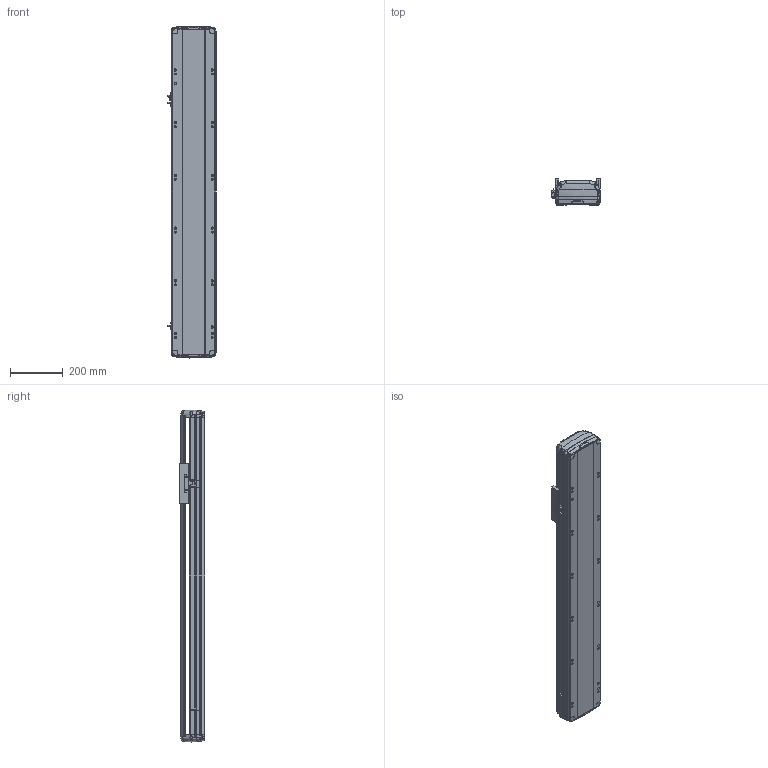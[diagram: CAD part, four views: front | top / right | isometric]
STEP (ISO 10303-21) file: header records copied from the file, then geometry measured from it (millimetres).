
FILE_DESCRIPTION (( 'STEP AP214' ), '1' );
FILE_NAME ('RTH17-XX-850-B-M40-C4.STEP', '2025-10-24T08:37:53', ( '' ), ( '' ), 'SwSTEP 2.0', 'SolidWorks 2018', '' );
FILE_SCHEMA (( 'AUTOMOTIVE_DESIGN' ));
Length unit declared in the file: millimetre
Products named in the file (7): N_RTH-L-012 感应片(外置)^RTH17-XX-XX-B-M40-C4（方程式）; N_RTH17-GY-001P^RTH17-XX-XX-B-M40-C4（方程式）; N_RTH17-M-007上盖^RTH17-XX-XX-B-M40-C4（方程式）; RTH17-XX-850-B-M40-C4; N_OMRON EE-SX672 換覜ん^RTH17-XX-XX-B-M40-C4ㄗ源最宒ㄘ; N_RTH17-M-011底座^RTH17-XX-XX-B-M40-C4（方程式）; N_RTH17-E-004丝杆螺母连接座^RTH17-XX-XX-B-M40-C4（方程式）
Assembly tree (9 placements, depth 2):
  RTH17-XX-850-B-M40-C4
    N_RTH17-M-011底座^RTH17-XX-XX-B-M40-C4（方程式）
    N_RTH17-M-007上盖^RTH17-XX-XX-B-M40-C4（方程式）
    N_OMRON EE-SX672 換覜ん^RTH17-XX-XX-B-M40-C4ㄗ源最宒ㄘ  x3
    N_RTH-L-012 感应片(外置)^RTH17-XX-XX-B-M40-C4（方程式）
    N_RTH17-E-004丝杆螺母连接座^RTH17-XX-XX-B-M40-C4（方程式）
    N_RTH17-GY-001P^RTH17-XX-XX-B-M40-C4（方程式）  x2
Bounding box: 183.5 x 97 x 1259.88 mm (x, y, z)
Volume: 9224466.4 mm3; surface area: 1272699.9 mm2
Topology: 7 solids, 11 shells, 1736 faces, 4880 edges, 3170 vertices
Faces by surface type: plane 811, cylinder 459, bspline 420, cone 28, torus 18
Entity records: 41046 total; most frequent: CARTESIAN_POINT 17043, ORIENTED_EDGE 5264, DIRECTION 4156, EDGE_CURVE 2636, VERTEX_POINT 1724, LINE 1436, VECTOR 1436, AXIS2_PLACEMENT_3D 1360
